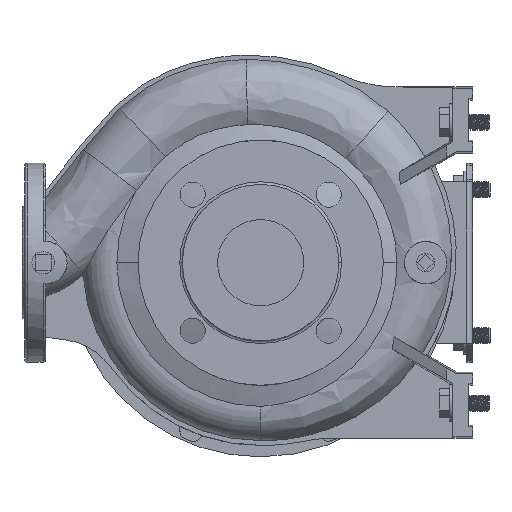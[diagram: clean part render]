
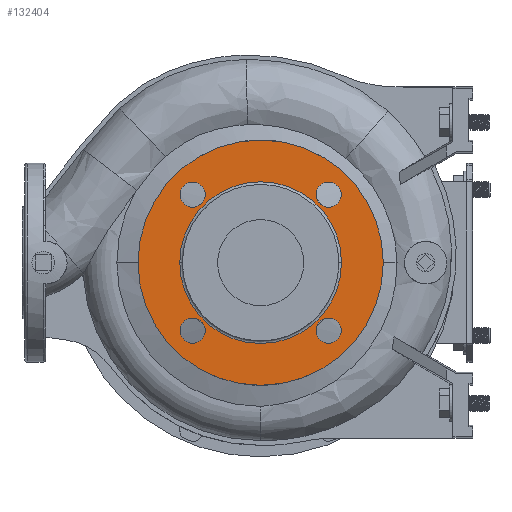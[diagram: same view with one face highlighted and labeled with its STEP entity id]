
A CAD part, left-side view. The second image highlights one B-rep face of the part: STEP entity #132404.
In plain terms, the highlighted planar face has unit normal (-1, 0, 0).
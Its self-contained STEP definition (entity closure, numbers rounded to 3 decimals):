
#2917 = CARTESIAN_POINT ( 'NONE',  ( -98., -60.765, 51.265 ) ) ;
#3908 = DIRECTION ( 'NONE',  ( -1., 0., 0. ) ) ;
#7131 = VERTEX_POINT ( 'NONE', #81409 ) ;
#8825 = AXIS2_PLACEMENT_3D ( 'NONE', #70920, #56291, #41661 ) ;
#9071 = CARTESIAN_POINT ( 'NONE',  ( -98., 41.765, -51.265 ) ) ;
#9430 = DIRECTION ( 'NONE',  ( 0., 0., -1. ) ) ;
#12613 = DIRECTION ( 'NONE',  ( -1., 0., 0. ) ) ;
#13152 = CIRCLE ( 'NONE', #146983, 9.5 ) ;
#13856 = EDGE_CURVE ( 'NONE', #124224, #178870, #103944, .T. ) ;
#14423 = DIRECTION ( 'NONE',  ( 0., 1., 0. ) ) ;
#15786 = VERTEX_POINT ( 'NONE', #157273 ) ;
#21459 = CARTESIAN_POINT ( 'NONE',  ( -98., 0., 0. ) ) ;
#21805 = CARTESIAN_POINT ( 'NONE',  ( -98., -92.5, 0. ) ) ;
#25358 = EDGE_LOOP ( 'NONE', ( #46702, #168883 ) ) ;
#26192 = FACE_BOUND ( 'NONE', #25358, .T. ) ;
#27156 = VERTEX_POINT ( 'NONE', #9071 ) ;
#27157 = FACE_BOUND ( 'NONE', #48660, .T. ) ;
#27194 = CARTESIAN_POINT ( 'NONE',  ( -98., 60.765, 51.265 ) ) ;
#32777 = CARTESIAN_POINT ( 'NONE',  ( -98., -61., 0. ) ) ;
#33838 = CARTESIAN_POINT ( 'NONE',  ( -98., 92.5, 0. ) ) ;
#34295 = CIRCLE ( 'NONE', #112249, 92.5 ) ;
#37478 = CARTESIAN_POINT ( 'NONE',  ( -98., 51.265, -51.265 ) ) ;
#37632 = CIRCLE ( 'NONE', #137188, 9.5 ) ;
#38357 = EDGE_CURVE ( 'NONE', #27156, #15786, #37632, .T. ) ;
#39531 = EDGE_CURVE ( 'NONE', #178870, #124224, #140288, .T. ) ;
#39644 = EDGE_CURVE ( 'NONE', #176690, #162346, #177513, .T. ) ;
#40849 = EDGE_CURVE ( 'NONE', #148523, #172783, #152805, .T. ) ;
#41661 = DIRECTION ( 'NONE',  ( 0., -1., 0. ) ) ;
#42737 = FACE_BOUND ( 'NONE', #48841, .T. ) ;
#42895 = CARTESIAN_POINT ( 'NONE',  ( -98., 61., 0. ) ) ;
#44064 = DIRECTION ( 'NONE',  ( 0., -1., 0. ) ) ;
#46601 = DIRECTION ( 'NONE',  ( -1., 0., 0. ) ) ;
#46702 = ORIENTED_EDGE ( 'NONE', *, *, #89119, .F. ) ;
#46719 = DIRECTION ( 'NONE',  ( -1., 0., 0. ) ) ;
#48660 = EDGE_LOOP ( 'NONE', ( #179900, #106086 ) ) ;
#48841 = EDGE_LOOP ( 'NONE', ( #186307, #86632 ) ) ;
#50378 = EDGE_CURVE ( 'NONE', #162346, #176690, #82545, .T. ) ;
#52037 = ORIENTED_EDGE ( 'NONE', *, *, #169154, .T. ) ;
#53814 = ORIENTED_EDGE ( 'NONE', *, *, #75581, .F. ) ;
#56119 = DIRECTION ( 'NONE',  ( 0., -1., 0. ) ) ;
#56291 = DIRECTION ( 'NONE',  ( -1., 0., 0. ) ) ;
#59193 = AXIS2_PLACEMENT_3D ( 'NONE', #146119, #12613, #131502 ) ;
#60222 = CARTESIAN_POINT ( 'NONE',  ( -98., 61., 0. ) ) ;
#60234 = EDGE_CURVE ( 'NONE', #98806, #130785, #168094, .T. ) ;
#60475 = DIRECTION ( 'NONE',  ( -1., 0., 0. ) ) ;
#61289 = CARTESIAN_POINT ( 'NONE',  ( -98., -41.765, 51.265 ) ) ;
#64351 = DIRECTION ( 'NONE',  ( 0., -1., 0. ) ) ;
#65996 = AXIS2_PLACEMENT_3D ( 'NONE', #111705, #46719, #76937 ) ;
#68598 = CARTESIAN_POINT ( 'NONE',  ( -98., -60.765, -51.265 ) ) ;
#70920 = CARTESIAN_POINT ( 'NONE',  ( -98., 0., 0. ) ) ;
#73191 = DIRECTION ( 'NONE',  ( 0., 1., 0. ) ) ;
#75581 = EDGE_CURVE ( 'NONE', #15786, #27156, #147755, .T. ) ;
#76937 = DIRECTION ( 'NONE',  ( 0., 1., 0. ) ) ;
#77986 = AXIS2_PLACEMENT_3D ( 'NONE', #134656, #176569, #44064 ) ;
#80360 = DIRECTION ( 'NONE',  ( 0., 0., 1. ) ) ;
#81409 = CARTESIAN_POINT ( 'NONE',  ( -98., -41.765, -51.265 ) ) ;
#82544 = AXIS2_PLACEMENT_3D ( 'NONE', #60222, #179071, #14423 ) ;
#82545 = CIRCLE ( 'NONE', #144710, 9.5 ) ;
#83522 = DIRECTION ( 'NONE',  ( -1., 0., 0. ) ) ;
#84260 = AXIS2_PLACEMENT_3D ( 'NONE', #86985, #146397, #151197 ) ;
#84400 = DIRECTION ( 'NONE',  ( -1., 0., 0. ) ) ;
#85310 = AXIS2_PLACEMENT_3D ( 'NONE', #147629, #84400, #56119 ) ;
#86632 = ORIENTED_EDGE ( 'NONE', *, *, #13856, .F. ) ;
#86985 = CARTESIAN_POINT ( 'NONE',  ( -98., -51.265, 51.265 ) ) ;
#88562 = CARTESIAN_POINT ( 'NONE',  ( -98., 51.265, -51.265 ) ) ;
#89119 = EDGE_CURVE ( 'NONE', #130785, #98806, #89801, .T. ) ;
#89801 = CIRCLE ( 'NONE', #8825, 61. ) ;
#98806 = VERTEX_POINT ( 'NONE', #42895 ) ;
#103944 = CIRCLE ( 'NONE', #85310, 9.5 ) ;
#106071 = DIRECTION ( 'NONE',  ( 0., 0., 1. ) ) ;
#106086 = ORIENTED_EDGE ( 'NONE', *, *, #39644, .F. ) ;
#106265 = ORIENTED_EDGE ( 'NONE', *, *, #38357, .F. ) ;
#106420 = ORIENTED_EDGE ( 'NONE', *, *, #157474, .F. ) ;
#111705 = CARTESIAN_POINT ( 'NONE',  ( -98., -51.265, -51.265 ) ) ;
#112249 = AXIS2_PLACEMENT_3D ( 'NONE', #126619, #155826, #171409 ) ;
#116811 = FACE_BOUND ( 'NONE', #165244, .T. ) ;
#119840 = AXIS2_PLACEMENT_3D ( 'NONE', #37478, #185566, #80360 ) ;
#124224 = VERTEX_POINT ( 'NONE', #27194 ) ;
#126619 = CARTESIAN_POINT ( 'NONE',  ( -98., 0., 0. ) ) ;
#130785 = VERTEX_POINT ( 'NONE', #32777 ) ;
#131502 = DIRECTION ( 'NONE',  ( 0., -1., 0. ) ) ;
#132404 = ADVANCED_FACE ( 'NONE', ( #27157, #116811, #159689, #42737, #26192, #175254 ), #176193, .F. ) ;
#134051 = ORIENTED_EDGE ( 'NONE', *, *, #174476, .F. ) ;
#134656 = CARTESIAN_POINT ( 'NONE',  ( -98., 51.265, 51.265 ) ) ;
#137188 = AXIS2_PLACEMENT_3D ( 'NONE', #88562, #46601, #106071 ) ;
#138320 = VERTEX_POINT ( 'NONE', #68598 ) ;
#140288 = CIRCLE ( 'NONE', #77986, 9.5 ) ;
#142955 = CARTESIAN_POINT ( 'NONE',  ( -98., -51.265, 51.265 ) ) ;
#144710 = AXIS2_PLACEMENT_3D ( 'NONE', #142955, #83522, #9430 ) ;
#146119 = CARTESIAN_POINT ( 'NONE',  ( -98., 0., 0. ) ) ;
#146397 = DIRECTION ( 'NONE',  ( -1., 0., 0. ) ) ;
#146941 = CIRCLE ( 'NONE', #65996, 9.5 ) ;
#146983 = AXIS2_PLACEMENT_3D ( 'NONE', #164732, #60475, #73191 ) ;
#147629 = CARTESIAN_POINT ( 'NONE',  ( -98., 51.265, 51.265 ) ) ;
#147755 = CIRCLE ( 'NONE', #119840, 9.5 ) ;
#148523 = VERTEX_POINT ( 'NONE', #33838 ) ;
#151197 = DIRECTION ( 'NONE',  ( 0., 0., -1. ) ) ;
#152395 = CARTESIAN_POINT ( 'NONE',  ( -98., 41.765, 51.265 ) ) ;
#152805 = CIRCLE ( 'NONE', #177657, 92.5 ) ;
#155826 = DIRECTION ( 'NONE',  ( -1., 0., 0. ) ) ;
#157273 = CARTESIAN_POINT ( 'NONE',  ( -98., 60.765, -51.265 ) ) ;
#157474 = EDGE_CURVE ( 'NONE', #7131, #138320, #13152, .T. ) ;
#159689 = FACE_BOUND ( 'NONE', #188666, .T. ) ;
#162346 = VERTEX_POINT ( 'NONE', #2917 ) ;
#164732 = CARTESIAN_POINT ( 'NONE',  ( -98., -51.265, -51.265 ) ) ;
#165244 = EDGE_LOOP ( 'NONE', ( #134051, #106420 ) ) ;
#168094 = CIRCLE ( 'NONE', #59193, 61. ) ;
#168883 = ORIENTED_EDGE ( 'NONE', *, *, #60234, .F. ) ;
#169154 = EDGE_CURVE ( 'NONE', #172783, #148523, #34295, .T. ) ;
#171367 = EDGE_LOOP ( 'NONE', ( #52037, #175537 ) ) ;
#171409 = DIRECTION ( 'NONE',  ( 0., -1., 0. ) ) ;
#172783 = VERTEX_POINT ( 'NONE', #21805 ) ;
#174476 = EDGE_CURVE ( 'NONE', #138320, #7131, #146941, .T. ) ;
#175254 = FACE_OUTER_BOUND ( 'NONE', #171367, .T. ) ;
#175537 = ORIENTED_EDGE ( 'NONE', *, *, #40849, .T. ) ;
#176193 = PLANE ( 'NONE',  #82544 ) ;
#176569 = DIRECTION ( 'NONE',  ( -1., 0., 0. ) ) ;
#176690 = VERTEX_POINT ( 'NONE', #61289 ) ;
#177513 = CIRCLE ( 'NONE', #84260, 9.5 ) ;
#177657 = AXIS2_PLACEMENT_3D ( 'NONE', #21459, #3908, #64351 ) ;
#178870 = VERTEX_POINT ( 'NONE', #152395 ) ;
#179071 = DIRECTION ( 'NONE',  ( 1., 0., 0. ) ) ;
#179900 = ORIENTED_EDGE ( 'NONE', *, *, #50378, .F. ) ;
#185566 = DIRECTION ( 'NONE',  ( -1., 0., 0. ) ) ;
#186307 = ORIENTED_EDGE ( 'NONE', *, *, #39531, .F. ) ;
#188666 = EDGE_LOOP ( 'NONE', ( #106265, #53814 ) ) ;
